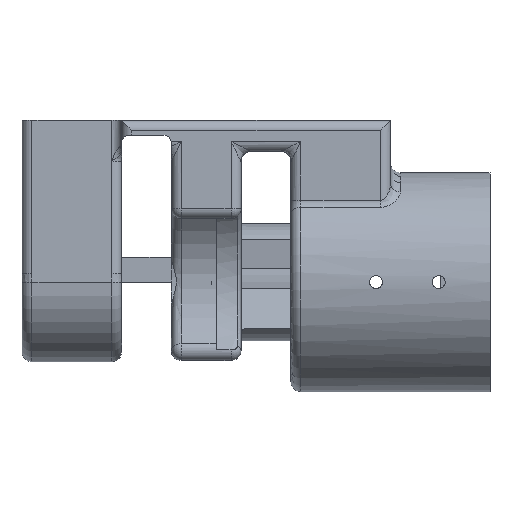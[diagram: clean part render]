
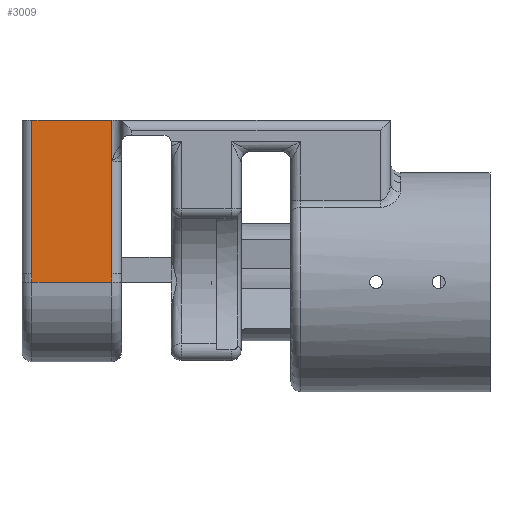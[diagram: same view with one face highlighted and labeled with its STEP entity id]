
A CAD part, left-side view. The second image highlights one B-rep face of the part: STEP entity #3009.
In plain terms, the highlighted planar face has unit normal (-1, 0, 0).
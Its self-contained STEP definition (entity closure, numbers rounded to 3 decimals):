
#170 = ORIENTED_EDGE ( 'NONE', *, *, #2300, .T. ) ;
#395 = VERTEX_POINT ( 'NONE', #4983 ) ;
#471 = CARTESIAN_POINT ( 'NONE',  ( -16., 22., 1.209 ) ) ;
#781 = EDGE_CURVE ( 'NONE', #2666, #3409, #5145, .T. ) ;
#962 = DIRECTION ( 'NONE',  ( 1., 0., 0. ) ) ;
#982 = VERTEX_POINT ( 'NONE', #4958 ) ;
#1032 = VECTOR ( 'NONE', #2460, 1000. ) ;
#1058 = PLANE ( 'NONE',  #4558 ) ;
#1296 = CARTESIAN_POINT ( 'NONE',  ( -16., 22., 32.5 ) ) ;
#1314 = DIRECTION ( 'NONE',  ( 0., -1., 0. ) ) ;
#1372 = EDGE_CURVE ( 'NONE', #2666, #395, #1471, .T. ) ;
#1411 = ORIENTED_EDGE ( 'NONE', *, *, #3335, .T. ) ;
#1468 = CARTESIAN_POINT ( 'NONE',  ( -16., 22., 32.5 ) ) ;
#1471 = LINE ( 'NONE', #5300, #5615 ) ;
#1504 = CARTESIAN_POINT ( 'NONE',  ( -16., 21.997, 0. ) ) ;
#1546 = DIRECTION ( 'NONE',  ( 0., 1., 0. ) ) ;
#1603 = CARTESIAN_POINT ( 'NONE',  ( -16., 38., 1.209 ) ) ;
#1720 = CARTESIAN_POINT ( 'NONE',  ( -16., 38.002, 0.182 ) ) ;
#1952 = CARTESIAN_POINT ( 'NONE',  ( -16., 40., 32.5 ) ) ;
#1994 = VERTEX_POINT ( 'NONE', #2214 ) ;
#2089 = ORIENTED_EDGE ( 'NONE', *, *, #4873, .T. ) ;
#2106 = VECTOR ( 'NONE', #1314, 1000. ) ;
#2132 = CARTESIAN_POINT ( 'NONE',  ( -16., 38.003, 0. ) ) ;
#2177 = CARTESIAN_POINT ( 'NONE',  ( -16., 38.002, 0.741 ) ) ;
#2214 = CARTESIAN_POINT ( 'NONE',  ( -16., 38.003, 0. ) ) ;
#2300 = EDGE_CURVE ( 'NONE', #1994, #982, #6550, .T. ) ;
#2301 = ORIENTED_EDGE ( 'NONE', *, *, #4913, .T. ) ;
#2460 = DIRECTION ( 'NONE',  ( 0., 0., 1. ) ) ;
#2666 = VERTEX_POINT ( 'NONE', #4220 ) ;
#2673 = CARTESIAN_POINT ( 'NONE',  ( -16., 21.998, 0.182 ) ) ;
#2926 = B_SPLINE_CURVE_WITH_KNOTS ( 'NONE', 3,
 ( #4834, #1603, #2177, #6462, #1720, #4330, #2132 ),
 .UNSPECIFIED., .F., .F.,
 ( 4, 3, 4 ),
 ( 0., 0.001, 0.002 ),
 .UNSPECIFIED. ) ;
#3002 = EDGE_CURVE ( 'NONE', #5711, #3651, #4176, .T. ) ;
#3009 = ADVANCED_FACE ( 'NONE', ( #6962 ), #1058, .F. ) ;
#3109 = CARTESIAN_POINT ( 'NONE',  ( -16., 40., 32.5 ) ) ;
#3156 = CARTESIAN_POINT ( 'NONE',  ( -16., 21.997, 0.091 ) ) ;
#3227 = DIRECTION ( 'NONE',  ( 0., 0., 1. ) ) ;
#3335 = EDGE_CURVE ( 'NONE', #395, #1994, #2926, .T. ) ;
#3409 = VERTEX_POINT ( 'NONE', #1296 ) ;
#3427 = VECTOR ( 'NONE', #4529, 1000. ) ;
#3651 = VERTEX_POINT ( 'NONE', #6873 ) ;
#3843 = CARTESIAN_POINT ( 'NONE',  ( -16., 40., 0. ) ) ;
#4051 = ORIENTED_EDGE ( 'NONE', *, *, #781, .F. ) ;
#4162 = CARTESIAN_POINT ( 'NONE',  ( -16., 21.998, 0.741 ) ) ;
#4176 = LINE ( 'NONE', #4717, #1032 ) ;
#4193 = CARTESIAN_POINT ( 'NONE',  ( -16., 22., 1.676 ) ) ;
#4220 = CARTESIAN_POINT ( 'NONE',  ( -16., 38., 32.5 ) ) ;
#4330 = CARTESIAN_POINT ( 'NONE',  ( -16., 38.003, 0.091 ) ) ;
#4385 = EDGE_LOOP ( 'NONE', ( #5694, #2089, #4051, #4472, #1411, #170, #2301 ) ) ;
#4472 = ORIENTED_EDGE ( 'NONE', *, *, #1372, .T. ) ;
#4529 = DIRECTION ( 'NONE',  ( 0., -1., 0. ) ) ;
#4558 = AXIS2_PLACEMENT_3D ( 'NONE', #3109, #962, #1546 ) ;
#4717 = CARTESIAN_POINT ( 'NONE',  ( -16., 22., 32.5 ) ) ;
#4834 = CARTESIAN_POINT ( 'NONE',  ( -16., 38., 1.676 ) ) ;
#4872 = LINE ( 'NONE', #1468, #6155 ) ;
#4873 = EDGE_CURVE ( 'NONE', #3651, #3409, #4872, .T. ) ;
#4913 = EDGE_CURVE ( 'NONE', #982, #5711, #5848, .T. ) ;
#4958 = CARTESIAN_POINT ( 'NONE',  ( -16., 21.997, 0. ) ) ;
#4983 = CARTESIAN_POINT ( 'NONE',  ( -16., 38., 1.676 ) ) ;
#5145 = LINE ( 'NONE', #1952, #2106 ) ;
#5300 = CARTESIAN_POINT ( 'NONE',  ( -16., 38., 0. ) ) ;
#5335 = CARTESIAN_POINT ( 'NONE',  ( -16., 21.998, 0.273 ) ) ;
#5437 = CARTESIAN_POINT ( 'NONE',  ( -16., 22., 1.676 ) ) ;
#5615 = VECTOR ( 'NONE', #5802, 1000. ) ;
#5694 = ORIENTED_EDGE ( 'NONE', *, *, #3002, .T. ) ;
#5711 = VERTEX_POINT ( 'NONE', #5437 ) ;
#5802 = DIRECTION ( 'NONE',  ( 0., 0., -1. ) ) ;
#5848 = B_SPLINE_CURVE_WITH_KNOTS ( 'NONE', 3,
 ( #1504, #3156, #2673, #5335, #4162, #471, #4193 ),
 .UNSPECIFIED., .F., .F.,
 ( 4, 3, 4 ),
 ( 0., 0., 0.002 ),
 .UNSPECIFIED. ) ;
#6155 = VECTOR ( 'NONE', #3227, 1000. ) ;
#6462 = CARTESIAN_POINT ( 'NONE',  ( -16., 38.002, 0.273 ) ) ;
#6550 = LINE ( 'NONE', #3843, #3427 ) ;
#6873 = CARTESIAN_POINT ( 'NONE',  ( -16., 22., 24.25 ) ) ;
#6962 = FACE_OUTER_BOUND ( 'NONE', #4385, .T. ) ;
